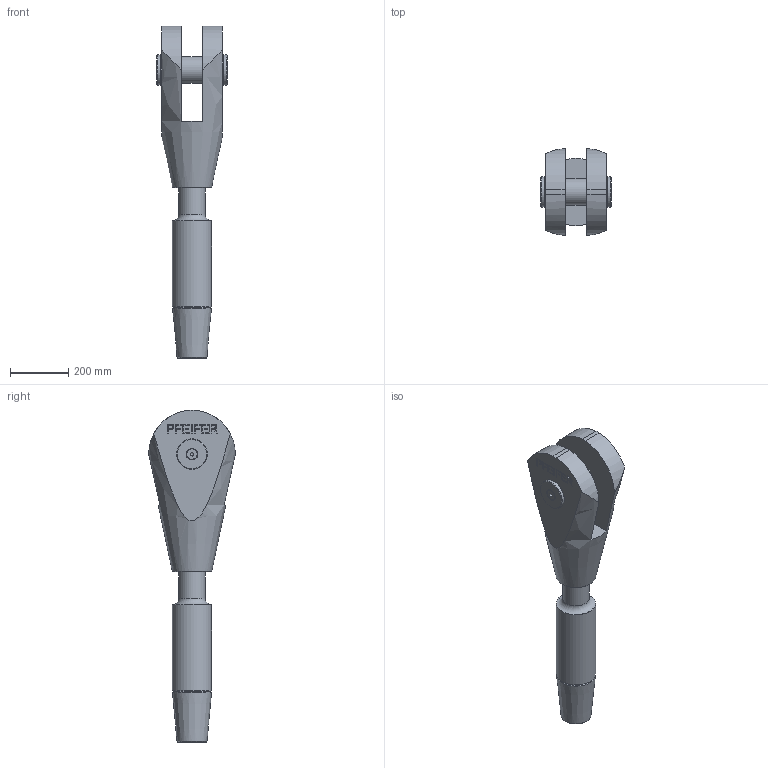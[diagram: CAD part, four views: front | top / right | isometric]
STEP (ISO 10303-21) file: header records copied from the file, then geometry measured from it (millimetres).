
FILE_DESCRIPTION(/* description */ (''),/* implementation_level */ '2;1');
FILE_NAME(/* name */ 'G:\Engineering\700 CAD\Internet-PX-1-step-igs-dxf\520-GAK-ADA-Arbeitsdateien\520-090-GAK-ADA.stp',/* time_stamp */ '2020-07-03T13:15:02+02:00',/* author */ ('schwarz'),/* organization */ (''),/* preprocessor_version */ 'ST-DEVELOPER v16.1',/* originating_system */ 'Autodesk Inventor 2016',/* authorisation */ '');
FILE_SCHEMA (('AUTOMOTIVE_DESIGN { 1 0 10303 214 3 1 1 }'));
Length unit declared in the file: centimetre
Products named in the file (1): 520-090-GAK-ADA-Kunde
Bounding box: 244 x 298.31 x 1143.97 mm (x, y, z)
Volume: 22998440.8 mm3; surface area: 958606.3 mm2
Topology: 2 solids, 6 shells, 214 faces, 555 edges, 377 vertices
Faces by surface type: plane 147, bspline 24, cylinder 22, cone 20, torus 1
Full cylindrical faces by diameter (mm): 17.294 x2, 20 x2, 22 x2, 36.05 x2, 90 x1, 92 x1, 93 x1, 95 x2, 105 x2, 135 x1
Entity records: 6515 total; most frequent: CARTESIAN_POINT 1440, ORIENTED_EDGE 984, DIRECTION 876, EDGE_CURVE 492, LINE 364, VECTOR 364, VERTEX_POINT 344, EDGE_LOOP 276
